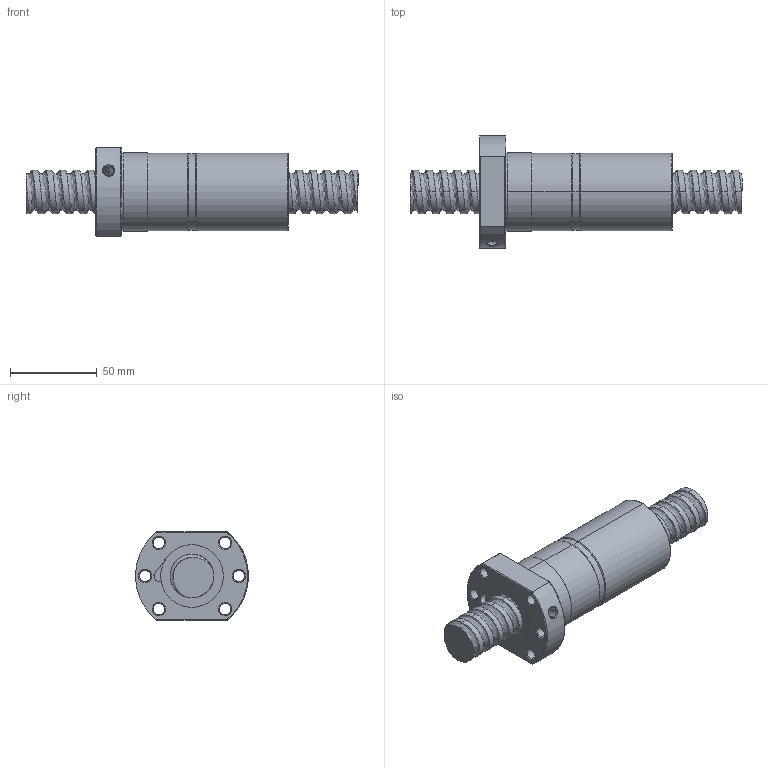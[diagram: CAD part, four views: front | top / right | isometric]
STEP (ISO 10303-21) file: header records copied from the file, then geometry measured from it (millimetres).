
FILE_DESCRIPTION (( 'STEP AP214' ), '1' );
FILE_NAME ('FDDC02508T4-D-C.STEP', '2010-07-06T02:50:46', ( 'XPAUTO' ), ( 'XPAUTO' ), 'SwSTEP 2.0', 'SolidWorks 2007', '' );
FILE_SCHEMA (( 'AUTOMOTIVE_DESIGN' ));
Length unit declared in the file: millimetre
Products named in the file (3): FDDC02508T4-D-C.sldasm-Part-1_預設; FDDC02508T4-D-C; FDDC02508T4-D-C.sldasm-Part-2_預設
Assembly tree (2 placements, depth 2):
  FDDC02508T4-D-C
    FDDC02508T4-D-C.sldasm-Part-2_預設
    FDDC02508T4-D-C.sldasm-Part-1_預設
Bounding box: 191 x 64.79 x 51 mm (x, y, z)
Volume: 218445.5 mm3; surface area: 50582.1 mm2
Topology: 2 solids, 2 shells, 150 faces, 380 edges, 239 vertices
Faces by surface type: cylinder 90, cone 24, plane 23, torus 8, bspline 5
Entity records: 31310 total; most frequent: CARTESIAN_POINT 27759, ORIENTED_EDGE 760, DIRECTION 674, EDGE_CURVE 380, AXIS2_PLACEMENT_3D 271, VERTEX_POINT 239, EDGE_LOOP 171, ADVANCED_FACE 150
